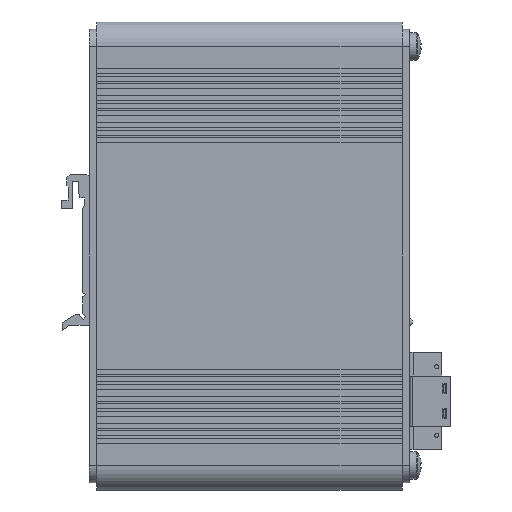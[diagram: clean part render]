
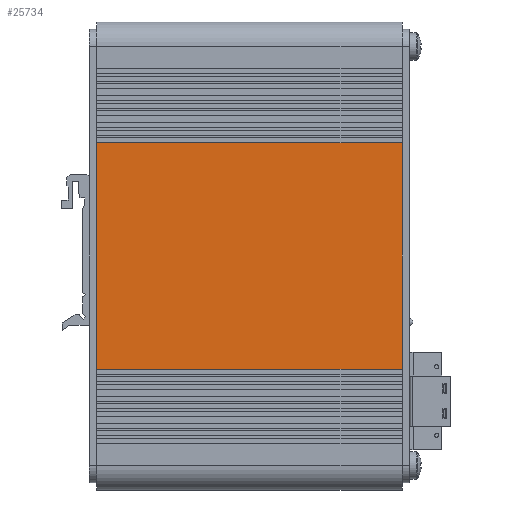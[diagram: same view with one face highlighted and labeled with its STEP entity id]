
A CAD part, left-side view. The second image highlights one B-rep face of the part: STEP entity #25734.
In plain terms, the highlighted planar face has unit normal (-1, 0, 0).
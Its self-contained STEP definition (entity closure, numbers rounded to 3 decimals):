
#1642=PLANE('',#27304);
#3069=FACE_OUTER_BOUND('',#4486,.T.);
#4486=EDGE_LOOP('',(#23469,#23470,#23471,#23472));
#7086=LINE('',#61042,#10029);
#7265=LINE('',#61420,#10208);
#7393=LINE('',#61680,#10336);
#7394=LINE('',#61681,#10337);
#10029=VECTOR('',#32637,10.);
#10208=VECTOR('',#32924,10.);
#10336=VECTOR('',#33134,10.);
#10337=VECTOR('',#33135,10.);
#12885=VERTEX_POINT('',#61038);
#12886=VERTEX_POINT('',#61040);
#13029=VERTEX_POINT('',#61416);
#13031=VERTEX_POINT('',#61419);
#16355=EDGE_CURVE('',#12885,#12886,#7086,.T.);
#16534=EDGE_CURVE('',#13031,#13029,#7265,.T.);
#16662=EDGE_CURVE('',#12886,#13031,#7393,.T.);
#16663=EDGE_CURVE('',#13029,#12885,#7394,.T.);
#23469=ORIENTED_EDGE('',*,*,#16355,.T.);
#23470=ORIENTED_EDGE('',*,*,#16662,.T.);
#23471=ORIENTED_EDGE('',*,*,#16534,.T.);
#23472=ORIENTED_EDGE('',*,*,#16663,.T.);
#25734=ADVANCED_FACE('',(#3069),#1642,.T.);
#27304=AXIS2_PLACEMENT_3D('',#61679,#33132,#33133);
#32637=DIRECTION('',(0.,-1.,0.));
#32924=DIRECTION('',(0.,1.,0.));
#33132=DIRECTION('center_axis',(-1.,0.,0.));
#33133=DIRECTION('ref_axis',(0.,0.,1.));
#33134=DIRECTION('',(0.,0.,1.));
#33135=DIRECTION('',(0.,0.,-1.));
#61038=CARTESIAN_POINT('',(0.,63.5,24.5));
#61040=CARTESIAN_POINT('',(0.,1.5,24.5));
#61042=CARTESIAN_POINT('',(0.,0.75,24.5));
#61416=CARTESIAN_POINT('',(0.,63.5,70.5));
#61419=CARTESIAN_POINT('',(0.,1.5,70.5));
#61420=CARTESIAN_POINT('',(0.,0.75,70.5));
#61679=CARTESIAN_POINT('Origin',(0.,0.,5.));
#61680=CARTESIAN_POINT('',(0.,1.5,26.25));
#61681=CARTESIAN_POINT('',(0.,63.5,26.25));
